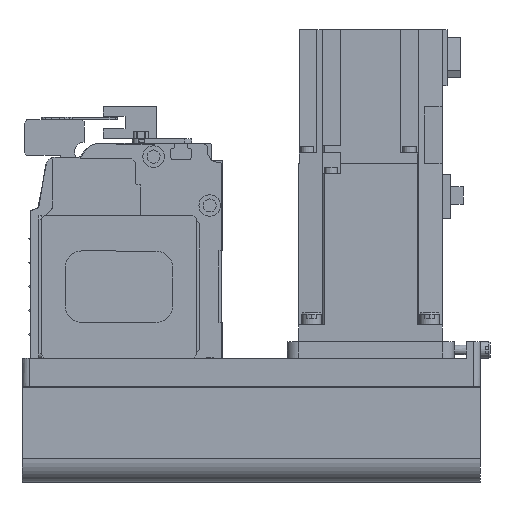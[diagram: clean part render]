
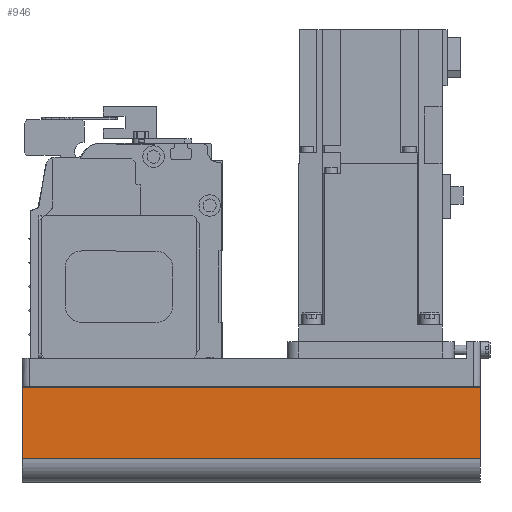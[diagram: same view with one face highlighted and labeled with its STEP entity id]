
A CAD part, left-side view. The second image highlights one B-rep face of the part: STEP entity #946.
In plain terms, the highlighted planar face has unit normal (-1, 0, 0) as drawn and (0, 1, 0) by its records, which use the part's own axes.
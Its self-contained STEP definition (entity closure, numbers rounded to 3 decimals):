
#946 = ADVANCED_FACE( '', ( #2537 ), #2538, .T. );
#2537 = FACE_OUTER_BOUND( '', #5049, .T. );
#2538 = PLANE( '', #5050 );
#5049 = EDGE_LOOP( '', ( #7642, #7643, #7644, #7645 ) );
#5050 = AXIS2_PLACEMENT_3D( '', #7646, #7647, #7648 );
#7642 = ORIENTED_EDGE( '', *, *, #14173, .F. );
#7643 = ORIENTED_EDGE( '', *, *, #14174, .F. );
#7644 = ORIENTED_EDGE( '', *, *, #14175, .T. );
#7645 = ORIENTED_EDGE( '', *, *, #14176, .T. );
#7646 = CARTESIAN_POINT( '', ( -192., 40., -42. ) );
#7647 = DIRECTION( '', ( 0., 1., 0. ) );
#7648 = DIRECTION( '', ( 0., 0., 1. ) );
#14173 = EDGE_CURVE( '', #16790, #16791, #16792, .T. );
#14174 = EDGE_CURVE( '', #16793, #16790, #16794, .T. );
#14175 = EDGE_CURVE( '', #16793, #16795, #16796, .T. );
#14176 = EDGE_CURVE( '', #16795, #16791, #16797, .T. );
#16790 = VERTEX_POINT( '', #20602 );
#16791 = VERTEX_POINT( '', #20603 );
#16792 = LINE( '', #20604, #20605 );
#16793 = VERTEX_POINT( '', #20606 );
#16794 = LINE( '', #20607, #20608 );
#16795 = VERTEX_POINT( '', #20609 );
#16796 = LINE( '', #20610, #20611 );
#16797 = LINE( '', #20612, #20613 );
#20602 = CARTESIAN_POINT( '', ( 0., 40., -42. ) );
#20603 = CARTESIAN_POINT( '', ( 0., 40., -12.1 ) );
#20604 = CARTESIAN_POINT( '', ( 0., 40., -42. ) );
#20605 = VECTOR( '', #25491, 1000. );
#20606 = CARTESIAN_POINT( '', ( -192., 40., -42. ) );
#20607 = CARTESIAN_POINT( '', ( -192., 40., -42. ) );
#20608 = VECTOR( '', #25492, 1000. );
#20609 = CARTESIAN_POINT( '', ( -192., 40., -12.1 ) );
#20610 = CARTESIAN_POINT( '', ( -192., 40., -42. ) );
#20611 = VECTOR( '', #25493, 1000. );
#20612 = CARTESIAN_POINT( '', ( -192., 40., -12.1 ) );
#20613 = VECTOR( '', #25494, 1000. );
#25491 = DIRECTION( '', ( 0., 0., 1. ) );
#25492 = DIRECTION( '', ( 1., 0., 0. ) );
#25493 = DIRECTION( '', ( 0., 0., 1. ) );
#25494 = DIRECTION( '', ( 1., 0., 0. ) );
